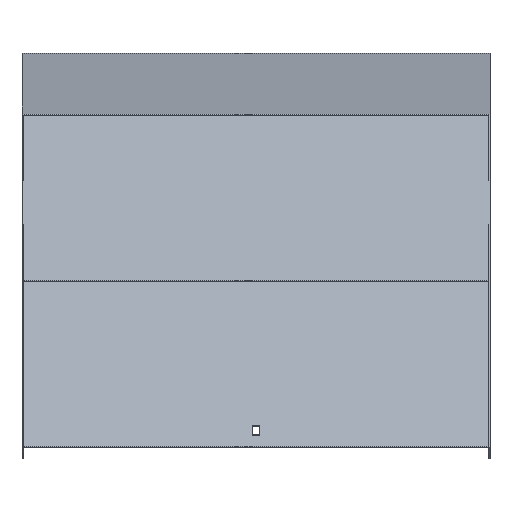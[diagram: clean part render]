
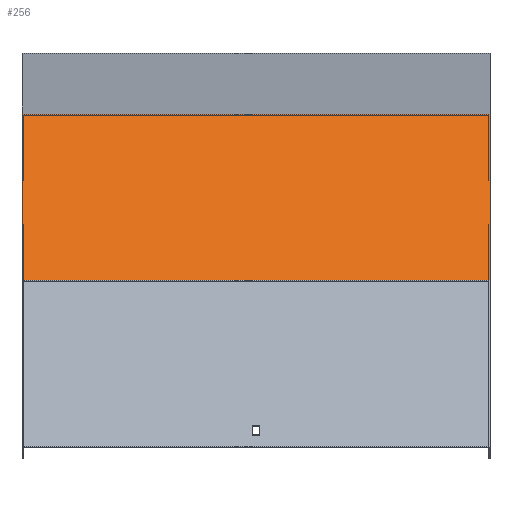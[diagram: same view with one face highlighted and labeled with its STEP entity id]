
A CAD part, top view. The second image highlights one B-rep face of the part: STEP entity #256.
In plain terms, the highlighted planar face has unit normal (0, 0.707, 0.707).
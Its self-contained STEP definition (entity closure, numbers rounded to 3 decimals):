
#5 = VERTEX_POINT ( 'NONE', #106 ) ;
#106 = CARTESIAN_POINT ( 'NONE',  ( 201.5, -176.075, 505.245 ) ) ;
#129 = DIRECTION ( 'NONE',  ( 0., -0.707, 0.707 ) ) ;
#138 = VERTEX_POINT ( 'NONE', #267 ) ;
#170 = CARTESIAN_POINT ( 'NONE',  ( 201.5, -36.328, 365.498 ) ) ;
#213 = CARTESIAN_POINT ( 'NONE',  ( 201.5, -36.328, 365.498 ) ) ;
#230 = VECTOR ( 'NONE', #324, 1000. ) ;
#241 = ORIENTED_EDGE ( 'NONE', *, *, #744, .F. ) ;
#256 = ADVANCED_FACE ( 'NONE', ( #655 ), #901, .F. ) ;
#267 = CARTESIAN_POINT ( 'NONE',  ( -201.5, -176.075, 505.245 ) ) ;
#296 = EDGE_LOOP ( 'NONE', ( #925, #241, #587, #407 ) ) ;
#324 = DIRECTION ( 'NONE',  ( -1., 0., 0. ) ) ;
#341 = DIRECTION ( 'NONE',  ( -1., 0., 0. ) ) ;
#393 = VERTEX_POINT ( 'NONE', #613 ) ;
#399 = LINE ( 'NONE', #170, #711 ) ;
#407 = ORIENTED_EDGE ( 'NONE', *, *, #934, .T. ) ;
#422 = LINE ( 'NONE', #576, #747 ) ;
#425 = DIRECTION ( 'NONE',  ( 0., -0.707, -0.707 ) ) ;
#576 = CARTESIAN_POINT ( 'NONE',  ( -201.5, -36.328, 365.498 ) ) ;
#587 = ORIENTED_EDGE ( 'NONE', *, *, #598, .F. ) ;
#598 = EDGE_CURVE ( 'NONE', #393, #5, #399, .T. ) ;
#601 = VERTEX_POINT ( 'NONE', #765 ) ;
#613 = CARTESIAN_POINT ( 'NONE',  ( 201.5, -32.538, 361.708 ) ) ;
#620 = DIRECTION ( 'NONE',  ( 0., -0.707, 0.707 ) ) ;
#625 = AXIS2_PLACEMENT_3D ( 'NONE', #213, #425, #824 ) ;
#634 = CARTESIAN_POINT ( 'NONE',  ( 201.5, -176.075, 505.245 ) ) ;
#655 = FACE_OUTER_BOUND ( 'NONE', #296, .T. ) ;
#698 = VECTOR ( 'NONE', #341, 1000. ) ;
#699 = LINE ( 'NONE', #634, #230 ) ;
#711 = VECTOR ( 'NONE', #620, 1000. ) ;
#744 = EDGE_CURVE ( 'NONE', #5, #138, #699, .T. ) ;
#747 = VECTOR ( 'NONE', #129, 1000. ) ;
#765 = CARTESIAN_POINT ( 'NONE',  ( -201.5, -32.538, 361.708 ) ) ;
#804 = CARTESIAN_POINT ( 'NONE',  ( 201.5, -32.538, 361.708 ) ) ;
#824 = DIRECTION ( 'NONE',  ( 0., 0.707, -0.707 ) ) ;
#880 = LINE ( 'NONE', #804, #698 ) ;
#901 = PLANE ( 'NONE',  #625 ) ;
#925 = ORIENTED_EDGE ( 'NONE', *, *, #953, .T. ) ;
#934 = EDGE_CURVE ( 'NONE', #393, #601, #880, .T. ) ;
#953 = EDGE_CURVE ( 'NONE', #601, #138, #422, .T. ) ;
